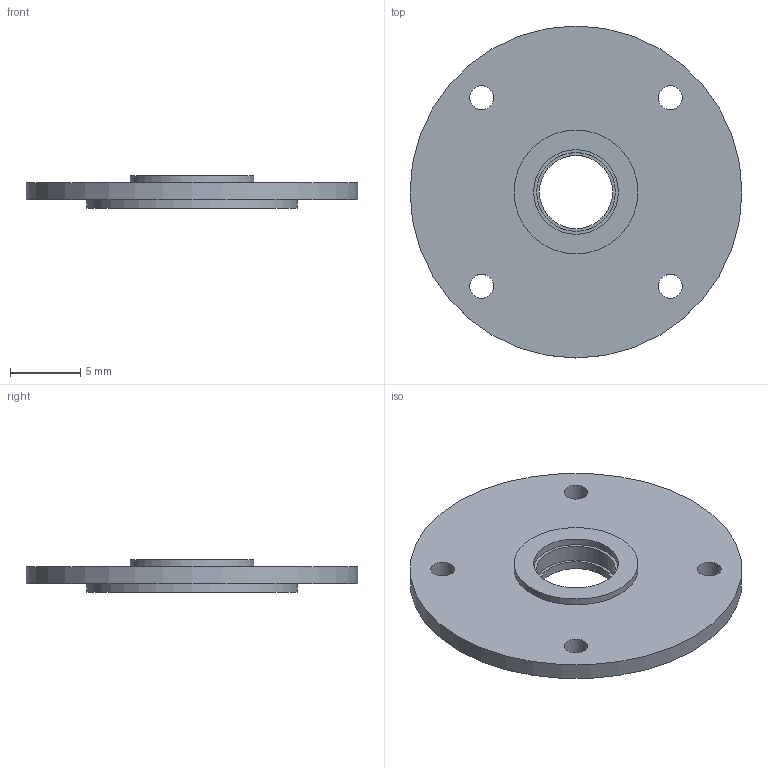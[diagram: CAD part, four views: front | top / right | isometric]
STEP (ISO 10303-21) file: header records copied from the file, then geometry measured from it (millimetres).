
FILE_DESCRIPTION(('Open CASCADE Model'),'2;1');
FILE_NAME('Open CASCADE Shape Model','2026-09-24T17:42:53',('Author'),( 'Open CASCADE'),'Open CASCADE STEP processor 7.8','Open CASCADE 7.8' ,'Unknown');
FILE_SCHEMA(('AUTOMOTIVE_DESIGN { 1 0 10303 214 1 1 1 1 }'));
Length unit declared in the file: millimetre
Products named in the file (1): Open CASCADE STEP translator 7.8 17
Bounding box: 23.6 x 23.6 x 2.3 mm (x, y, z)
Volume: 593.9 mm3; surface area: 1011.3 mm2
Topology: 1 solids, 1 shells, 16 faces, 30 edges, 20 vertices
Faces by surface type: cylinder 10, plane 6
Full cylindrical faces by diameter (mm): 1.7 x4, 5.2 x1, 5.6 x1, 6.02 x1, 8.8 x1, 15 x1, 23.6 x1
Entity records: 834 total; most frequent: DIRECTION 144, CARTESIAN_POINT 127, ORIENTED_EDGE 60, PCURVE 60, DEFINITIONAL_REPRESENTATION 60, LINE 50, VECTOR 50, CIRCLE 40
